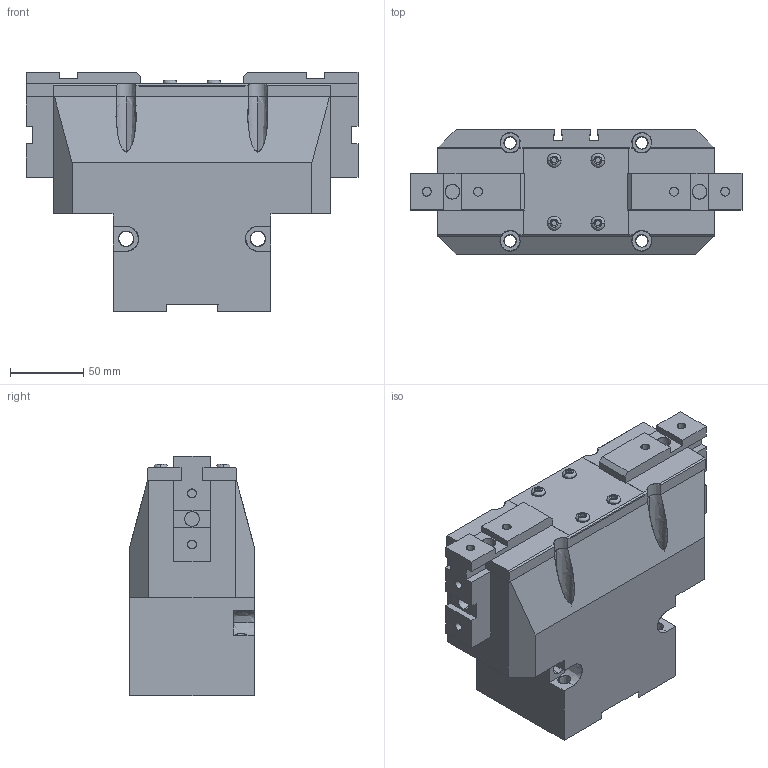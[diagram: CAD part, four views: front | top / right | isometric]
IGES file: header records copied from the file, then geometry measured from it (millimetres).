
Global section: file name: C:\Documents and Settings\Administrateur\Mes documents\OPE-190-SX-OPEN.igs; native system: AutoCAD-16.0s (LMS Tech) (Microsoft Windows NT Version 5.1 (x86)); preprocessor: Autodesk IGES Translator Mechanical Desktop.R7.0.43.0 (Mar 18 2003) from Autodesk, Inc.; date: 20050629.221354; units: millimetre
Bounding box: 227 x 85 x 164 mm (x, y, z)
Surface area: 215397.9 mm2 (no closed solid volume)
Topology: 0 solids, 0 shells, 299 faces, 3333 edges, 3426 vertices
Faces by surface type: bspline 299
